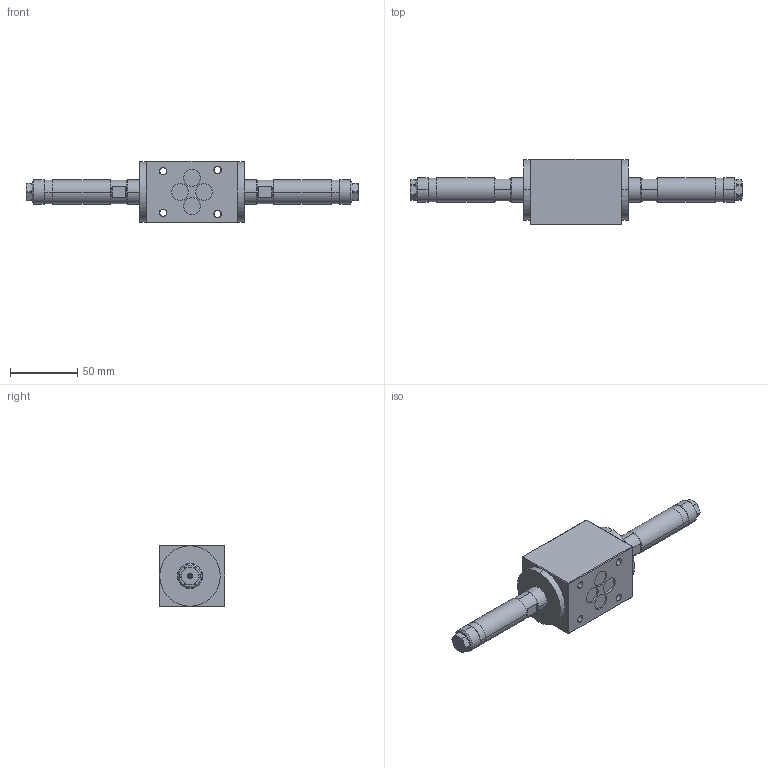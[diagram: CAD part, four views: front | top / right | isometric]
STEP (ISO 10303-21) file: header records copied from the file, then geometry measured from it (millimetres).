
FILE_DESCRIPTION (( 'STEP AP214' ), '1' );
FILE_NAME ('WDBFA06-4_3-S.STEP', '2023-07-04T13:01:05', ( '' ), ( '' ), 'SwSTEP 2.0', 'SolidWorks 2022', '' );
FILE_SCHEMA (( 'AUTOMOTIVE_DESIGN' ));
Length unit declared in the file: millimetre
Products named in the file (1): WDBFA06-4_3-S
Bounding box: 247 x 49 x 46 mm (x, y, z)
Volume: 203715.9 mm3; surface area: 32335.3 mm2
Topology: 1 solids, 1 shells, 287 faces, 673 edges, 424 vertices
Faces by surface type: plane 132, cylinder 84, cone 52, bspline 15, torus 4
Entity records: 12330 total; most frequent: CARTESIAN_POINT 2592, DIRECTION 1355, ORIENTED_EDGE 1346, EDGE_CURVE 673, AXIS2_PLACEMENT_3D 503, VERTEX_POINT 424, LINE 349, VECTOR 349
